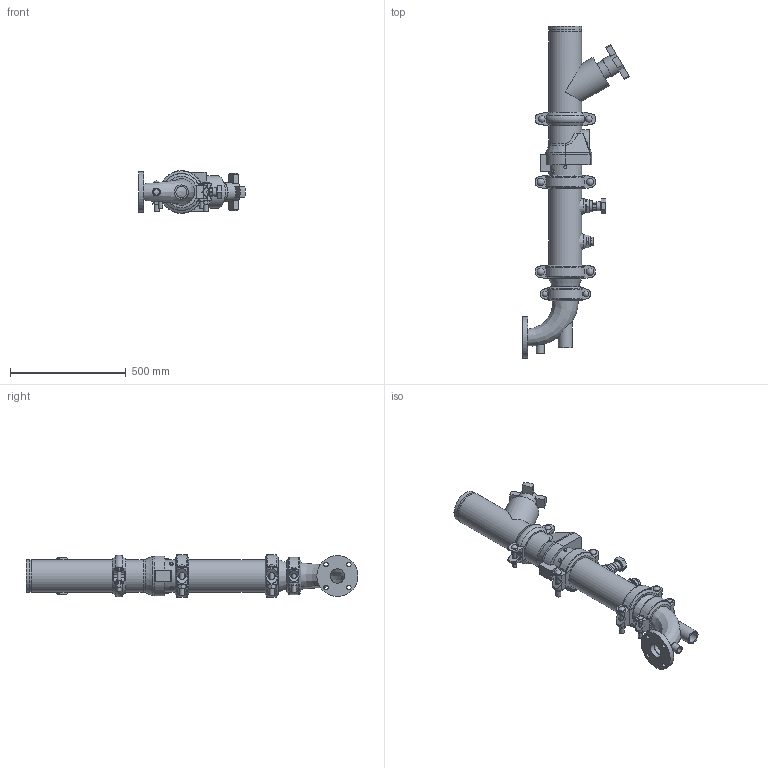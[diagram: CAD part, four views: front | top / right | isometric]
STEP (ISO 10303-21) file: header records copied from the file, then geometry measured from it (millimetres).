
FILE_DESCRIPTION(/* description */ ('VIC DVI PUMP DROP HORZ S/383 (OGSxFLG) (S/924-1.25)','CAx-IF Rec.Pracs.---Representation and Presentation of Product Manufacturing Information (PMI)---4.0---2014-10-13'),/* implementation_level */ '2;1');
FILE_NAME(/* name */ 'C:\Users\Vjadhav\AppData\Roaming\Autodesk\ApplicationPlugins\Victaulic.Temp\A892\Victaulic_IPS_Horizontal DVI_CL 150_Series 383 (OGSxFLG)_924 (1.25)_05.0x02.5 (125x65).stp',/* time_stamp */ '2022-02-28T15:43:16+05:00',/* author */ ('kkamble'),/* organization */ ('Victaulic'),/* preprocessor_version */ 'ST-DEVELOPER v17.2',/* originating_system */ 'Autodesk Inventor 2019',/* authorisation */ '');
FILE_SCHEMA (('AP242_MANAGED_MODEL_BASED_3D_ENGINEERING_MIM_LF { 1 0 10303 442 1 1 4 }'));
Length unit declared in the file: inch
Products named in the file (11): 383-924 (1.25)-05.0x02.5; Pipe-05.0; 177N-05.0; 107N-05.0; 789-05.0; 779-05.0; 924-04.0x01.25; 923-04.0x0.75; R100F-04.0x02.5; 177N-04.0; 050-05.0x04.0
Assembly tree (11 placements, depth 2):
  383-924 (1.25)-05.0x02.5
    177N-05.0  x2
    Pipe-05.0
    107N-05.0
    789-05.0
    779-05.0
    924-04.0x01.25
    923-04.0x0.75
    R100F-04.0x02.5
    177N-04.0
    050-05.0x04.0
Bounding box: 460.5 x 1435.1 x 185.67 mm (x, y, z)
Volume: 11354161.4 mm3; surface area: 1940686.4 mm2
Topology: 11 solids, 12 shells, 679 faces, 1807 edges, 1206 vertices
Faces by surface type: plane 371, cylinder 231, torus 24, cone 23, bspline 22, sphere 8
Full cylindrical faces by diameter (mm): 13.716 x4, 15.875 x4, 17.424 x2, 19.05 x4, 21.209 x4, 21.336 x1, 23.495 x2, 26.67 x3, 27.381 x2, 30.48 x4, 34.29 x1, 38.608 x1, 42.164 x1, 45.974 x4, 48.26 x1, 48.514 x1, 55.626 x2, 60.96 x1, 62.713 x1, 75.26 x1, 82.55 x1, 101.6 x1, 102.26 x2, 110.084 x2, 114.3 x5, 128.194 x4, 128.6 x3, 137.033 x7, 141.3 x19, 177.8 x1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
Entity records: 21440 total; most frequent: CARTESIAN_POINT 5415, DIRECTION 3257, ORIENTED_EDGE 3100, EDGE_CURVE 1550, AXIS2_PLACEMENT_3D 1228, VERTEX_POINT 1034, LINE 801, VECTOR 801
